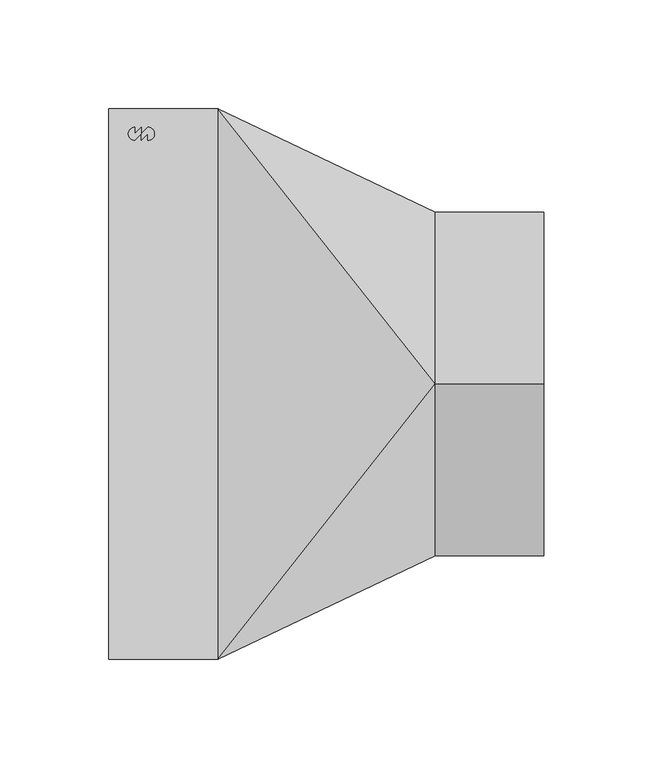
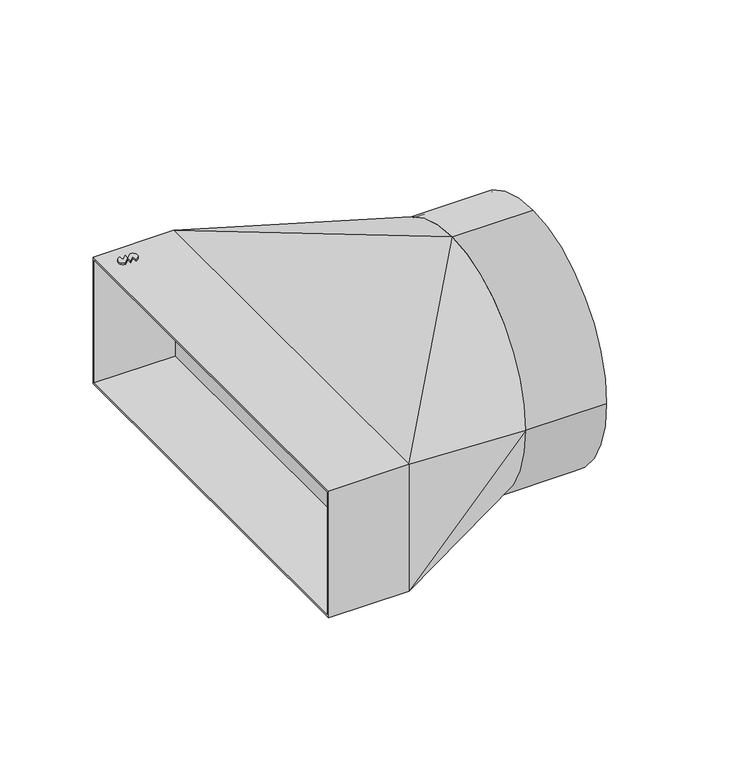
"""IFC4 building model written with IfcOpenShell, lengths in millimetres: duct fitting geometry, NLRS_57_DUF_UN_instortkanaal-rechthoekig-naar-rond-verloop_LT_velu : SYM (hart=hart)."""

from ifc_helpers import new_model, si_unit, point, frame, frame_2d, origin, origin_2d, place, context, project, spatial, polyline, circle_curve, trimmed, segment, composite_curve, outline, extrude, source, transform, mapped, element, save
from ifc_brep_helpers import plane_surface, spline_surface, advanced_brep


def duct_fitting_dd60b140(model_context):
    return source(origin(), model_context, "Body", "SolidModel", [
        extrude(outline(composite_curve([segment(polyline([(-82.0, 112.0), (-82.0, 115.0), (-85.0, 112.0), (-85.0, 115.0), (-82.0, 118.0)]), True, "CONTINUOUS"), segment(trimmed(circle_curve(frame_2d((-82.0, 115.0)), 3.0), [point((-82.0, 118.0))], [point((-82.0, 112.0))], False, "CARTESIAN"), True, "CONTINUOUS")], self_intersect=False)), frame((0.0, 0.0, -42.5), z_axis=(0.0, 0.0, 1.0), x_axis=(1.0, 0.0, 0.0)), (0.0, 0.0, 1.0), 1.0),
        extrude(outline(composite_curve([segment(polyline([(-88.0, 118.0), (-88.0, 115.0), (-85.0, 118.0), (-85.0, 115.0), (-88.0, 112.0)]), True, "CONTINUOUS"), segment(trimmed(circle_curve(frame_2d((-88.0, 115.0)), 3.0), [point((-88.0, 112.0))], [point((-88.0, 118.0))], False, "CARTESIAN"), True, "CONTINUOUS")], self_intersect=False)), frame((0.0, 0.0, -42.5), z_axis=(0.0, 0.0, 1.0), x_axis=(1.0, 0.0, 0.0)), (0.0, 0.0, 1.0), 1.0),
        extrude(outline(composite_curve([segment(polyline([(-88.0, 118.0), (-88.0, 115.0), (-85.0, 118.0), (-85.0, 115.0), (-88.0, 112.0)]), True, "CONTINUOUS"), segment(trimmed(circle_curve(frame_2d((-88.0, 115.0)), 3.0), [point((-88.0, 112.0))], [point((-88.0, 118.0))], False, "CARTESIAN"), True, "CONTINUOUS")], self_intersect=False)), frame((0.0, 0.0, 41.5), z_axis=(0.0, 0.0, 1.0), x_axis=(1.0, 0.0, 0.0)), (0.0, 0.0, 1.0), 1.0),
        extrude(outline(composite_curve([segment(polyline([(-82.0, 112.0), (-82.0, 115.0), (-85.0, 112.0), (-85.0, 115.0), (-82.0, 118.0)]), True, "CONTINUOUS"), segment(trimmed(circle_curve(frame_2d((-82.0, 115.0)), 3.0), [point((-82.0, 118.0))], [point((-82.0, 112.0))], False, "CARTESIAN"), True, "CONTINUOUS")], self_intersect=False)), frame((0.0, 0.0, 41.5), z_axis=(0.0, 0.0, 1.0), x_axis=(1.0, 0.0, 0.0)), (0.0, 0.0, 1.0), 1.0),
        extrude(outline(composite_curve([segment(trimmed(circle_curve(origin_2d(), 79.0), [point((79.0, 0.0))], [point((0.0, -79.0))], False, "CARTESIAN"), True, "CONTINUOUS"), segment(trimmed(circle_curve(origin_2d(), 79.0), [point((0.0, -79.0))], [point((-79.0, 0.0))], False, "CARTESIAN"), True, "CONTINUOUS"), segment(trimmed(circle_curve(origin_2d(), 79.0), [point((-79.0, 0.0))], [point((0.0, 79.0))], False, "CARTESIAN"), True, "CONTINUOUS"), segment(trimmed(circle_curve(origin_2d(), 79.0), [point((0.0, 79.0))], [point((79.0, 0.0))], False, "CARTESIAN"), True, "CONTINUOUS")], self_intersect=False), holes=[composite_curve([segment(trimmed(circle_curve(origin_2d(), 78.0), [point((0.0, 78.0))], [point((-78.0, 0.0))], True, "CARTESIAN"), True, "CONTINUOUS"), segment(trimmed(circle_curve(origin_2d(), 78.0), [point((-78.0, 0.0))], [point((0.0, -78.0))], True, "CARTESIAN"), True, "CONTINUOUS"), segment(trimmed(circle_curve(origin_2d(), 78.0), [point((0.0, -78.0))], [point((78.0, 0.0))], True, "CARTESIAN"), True, "CONTINUOUS"), segment(trimmed(circle_curve(origin_2d(), 78.0), [point((78.0, 0.0))], [point((0.0, 78.0))], True, "CARTESIAN"), True, "CONTINUOUS")], self_intersect=False)]), frame((50.0, 0.0, 0.0), z_axis=(1.0, 0.0, 0.0), x_axis=(0.0, 1.0, 0.0)), (0.0, 0.0, 1.0), 50.0),
        extrude(outline(polyline([(-126.5, 41.5), (126.5, 41.5), (126.5, -41.5), (-126.5, -41.5), (-126.5, 41.5)]), holes=[polyline([(-125.0, -40.0), (125.0, -40.0), (125.0, 40.0), (-125.0, 40.0), (-125.0, -40.0)])]), frame((-100.0, 0.0, 0.0), z_axis=(1.0, 0.0, 0.0), x_axis=(0.0, 1.0, 0.0)), (0.0, 0.0, 1.0), 50.0),
        advanced_brep(
        [(50.0, 0.0, 79.0), (50.0, -79.0, 0.0), (50.0, 0.0, -79.0), (50.0, 79.0, 0.0), (-50.0, -126.5, 41.5), (-50.0, 126.5, 41.5), (-50.0, 126.5, -41.5), (-50.0, -126.5, -41.5)],
        [
            (0, 1, circle_curve(frame((50.0, 0.0, 0.0), z_axis=(1.0, 0.0, 0.0), x_axis=(0.0, 1.0, 0.0)), 79.0)),
            (1, 2, circle_curve(frame((50.0, 0.0, 0.0), z_axis=(1.0, 0.0, 0.0), x_axis=(0.0, 1.0, 0.0)), 79.0)),
            (2, 3, circle_curve(frame((50.0, 0.0, 0.0), z_axis=(1.0, 0.0, 0.0), x_axis=(0.0, 1.0, 0.0)), 79.0)),
            (3, 0, circle_curve(frame((50.0, 0.0, 0.0), z_axis=(1.0, 0.0, 0.0), x_axis=(0.0, 1.0, 0.0)), 79.0)),
            (4, 5),
            (5, 6),
            (6, 7),
            (7, 4),
            (0, 4),
            (4, 1),
            (7, 1),
            (7, 2),
            (6, 2),
            (6, 3),
            (5, 3),
            (5, 0),
        ],
        [
            plane_surface(frame((50.0, 0.0, 0.0), z_axis=(1.0, 0.0, 0.0), x_axis=(0.0, 0.0, 1.0))),
            plane_surface(frame((-50.0, 0.0, 0.0), z_axis=(-1.0, 0.0, 0.0), x_axis=(0.0, 0.0, 1.0))),
            spline_surface(2, 1, [[(-50.0, -126.5, 41.5), (50.0, 0.0, 79.0)], [(-50.0, -126.5, 41.5), (50.0, -79.0, 79.0)], [(-50.0, -126.5, 41.5), (50.0, -79.0, 0.0)]], [3, 3], [2, 2], [0.0, 1.0], [0.0, 1.0], weights=[[1.0, 1.0], [0.7071067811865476, 0.7071067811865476], [1.0, 1.0]]),
            plane_surface(frame((-50.0, -126.5, 0.0), z_axis=(0.42905681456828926, -0.9032775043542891, 0.0), x_axis=(0.0, 0.0, -1.0))),
            spline_surface(2, 1, [[(-50.0, -126.5, -41.5), (50.0, -79.0, 0.0)], [(-50.0, -126.5, -41.5), (50.0, -79.0, -79.0)], [(-50.0, -126.5, -41.5), (50.0, 0.0, -79.0)]], [3, 3], [2, 2], [0.0, 1.0], [0.0, 1.0], weights=[[1.0, 1.0], [0.7071067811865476, 0.7071067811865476], [1.0, 1.0]]),
            plane_surface(frame((-50.0, 0.0, -41.5), z_axis=(-0.3511234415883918, 0.0, -0.9363291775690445), x_axis=(0.0, 1.0, 0.0))),
            spline_surface(2, 1, [[(-50.0, 126.5, -41.5), (50.0, 0.0, -79.0)], [(-50.0, 126.5, -41.5), (50.0, 79.0, -79.0)], [(-50.0, 126.5, -41.5), (50.0, 79.0, 0.0)]], [3, 3], [2, 2], [0.0, 1.0], [0.0, 1.0], weights=[[1.0, 1.0], [0.7071067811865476, 0.7071067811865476], [1.0, 1.0]]),
            plane_surface(frame((-50.0, 126.5, 0.0), z_axis=(0.4290568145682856, 0.9032775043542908, 0.0), x_axis=(0.0, 0.0, 1.0))),
            spline_surface(2, 1, [[(-50.0, 126.5, 41.5), (50.0, 79.0, 0.0)], [(-50.0, 126.5, 41.5), (50.0, 79.0, 79.0)], [(-50.0, 126.5, 41.5), (50.0, 0.0, 79.0)]], [3, 3], [2, 2], [0.0, 1.0], [0.0, 1.0], weights=[[1.0, 1.0], [0.7071067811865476, 0.7071067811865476], [1.0, 1.0]]),
            plane_surface(frame((-50.0, 0.0, 41.5), z_axis=(-0.35112344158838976, 0.0, 0.9363291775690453), x_axis=(0.0, -1.0, 0.0))),
        ],
        [
            (0, [[1, 2, 3, 4]]),
            (1, [[5, 6, 7, 8]]),
            (2, [[-1, 9, 10]]),
            (3, [[-8, 11, -10]]),
            (4, [[-2, -11, 12]]),
            (5, [[-7, 13, -12]]),
            (6, [[-3, -13, 14]]),
            (7, [[-6, 15, -14]]),
            (8, [[-4, -15, 16]]),
            (9, [[-5, -9, -16]]),
        ],
    ),
    ])


if __name__ == "__main__":
    model = new_model("IFC4")
    model_context = context("Model", 3, world=origin())
    ifc_project = project(units=[si_unit("LENGTHUNIT", "METRE", prefix="MILLI")], contexts=[model_context])
    site = spatial("IfcSite", under=ifc_project)
    building = spatial("IfcBuilding", under=site)
    placement = place(None, origin())
    duct_fitting_shape = duct_fitting_dd60b140(model_context)
    element("IfcDuctFitting", 1, ObjectType="NLRS_57_DUF_UN_instortkanaal-rechthoekig-naar-rond-verloop_LT_velu : SYM (hart=hart)", at=placement, inside=building, context=model_context, shape_type="MappedRepresentation", body=[
        mapped(duct_fitting_shape, transform((0.0, 0.0, 0.0), x_axis=(1.0, 0.0, 0.0), y_axis=(0.0, 1.0, 0.0), z_axis=(0.0, 0.0, 1.0))),
    ])
    save(model, "model.ifc")
